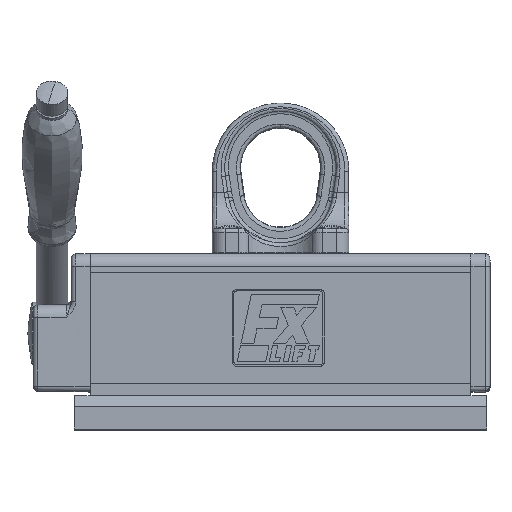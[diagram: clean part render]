
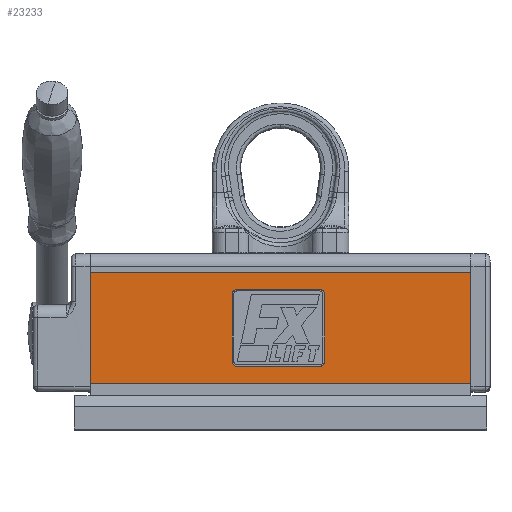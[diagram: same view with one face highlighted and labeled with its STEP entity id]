
A CAD part, top view. The second image highlights one B-rep face of the part: STEP entity #23233.
In plain terms, the highlighted planar face has unit normal (0, 0, 1).
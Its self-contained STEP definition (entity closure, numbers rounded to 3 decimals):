
#243 = EDGE_CURVE ( 'NONE', #61387, #5967, #23710, .T. ) ;
#722 = CARTESIAN_POINT ( 'NONE',  ( -120., 0., 54.5 ) ) ;
#910 = VERTEX_POINT ( 'NONE', #56344 ) ;
#1169 = CARTESIAN_POINT ( 'NONE',  ( -30.57, -13.706, 54.5 ) ) ;
#1253 = CARTESIAN_POINT ( 'NONE',  ( 120., 0., 54.5 ) ) ;
#2060 = VECTOR ( 'NONE', #31410, 1000. ) ;
#2574 = B_SPLINE_CURVE_WITH_KNOTS ( 'NONE', 3,
 ( #53909, #20285, #58757, #30005 ),
 .UNSPECIFIED., .F., .F.,
 ( 4, 4 ),
 ( 0.111, 0.222 ),
 .UNSPECIFIED. ) ;
#2956 = CARTESIAN_POINT ( 'NONE',  ( -27.332, -59.045, 54.5 ) ) ;
#3726 = B_SPLINE_CURVE_WITH_KNOTS ( 'NONE', 3,
 ( #60575, #55764, #41477, #12642 ),
 .UNSPECIFIED., .F., .F.,
 ( 4, 4 ),
 ( 0.333, 0.444 ),
 .UNSPECIFIED. ) ;
#5168 = CARTESIAN_POINT ( 'NONE',  ( 0., -59.045, 54.5 ) ) ;
#5691 = LINE ( 'NONE', #5168, #55353 ) ;
#5967 = VERTEX_POINT ( 'NONE', #61978 ) ;
#7275 = CARTESIAN_POINT ( 'NONE',  ( -27.332, -59.045, 54.5 ) ) ;
#7344 = VERTEX_POINT ( 'NONE', #1253 ) ;
#8169 = ORIENTED_EDGE ( 'NONE', *, *, #14700, .T. ) ;
#10210 = DIRECTION ( 'NONE',  ( 0., -1., 0. ) ) ;
#10228 = DIRECTION ( 'NONE',  ( 1., 0., 0. ) ) ;
#10728 = CARTESIAN_POINT ( 'NONE',  ( 24.485, -59.045, 54.5 ) ) ;
#11960 = VERTEX_POINT ( 'NONE', #39751 ) ;
#12642 = CARTESIAN_POINT ( 'NONE',  ( 24.485, -59.045, 54.5 ) ) ;
#13737 = EDGE_CURVE ( 'NONE', #15255, #7344, #31380, .T. ) ;
#14209 = ORIENTED_EDGE ( 'NONE', *, *, #47736, .T. ) ;
#14700 = EDGE_CURVE ( 'NONE', #20351, #33721, #5691, .T. ) ;
#14787 = LINE ( 'NONE', #55131, #2060 ) ;
#15255 = VERTEX_POINT ( 'NONE', #722 ) ;
#15663 = VECTOR ( 'NONE', #52274, 1000. ) ;
#15998 = AXIS2_PLACEMENT_3D ( 'NONE', #23338, #61766, #33011 ) ;
#16517 = EDGE_CURVE ( 'NONE', #11960, #21019, #28223, .T. ) ;
#16565 = ORIENTED_EDGE ( 'NONE', *, *, #16517, .T. ) ;
#16829 = VECTOR ( 'NONE', #10210, 1000. ) ;
#16925 = ORIENTED_EDGE ( 'NONE', *, *, #39781, .F. ) ;
#17592 = EDGE_CURVE ( 'NONE', #910, #39407, #60426, .T. ) ;
#17764 = CARTESIAN_POINT ( 'NONE',  ( 27.723, -55.806, 54.5 ) ) ;
#18723 = LINE ( 'NONE', #42632, #15663 ) ;
#18817 = LINE ( 'NONE', #32166, #42924 ) ;
#20285 = CARTESIAN_POINT ( 'NONE',  ( 26.266, -10.467, 54.5 ) ) ;
#20351 = VERTEX_POINT ( 'NONE', #10728 ) ;
#20873 = EDGE_LOOP ( 'NONE', ( #47286, #36046, #21173, #54981, #16565, #22285, #8169, #27038 ) ) ;
#21019 = VERTEX_POINT ( 'NONE', #17764 ) ;
#21173 = ORIENTED_EDGE ( 'NONE', *, *, #35793, .T. ) ;
#21809 = CARTESIAN_POINT ( 'NONE',  ( -30.57, -55.806, 54.5 ) ) ;
#21910 = VERTEX_POINT ( 'NONE', #54528 ) ;
#22285 = ORIENTED_EDGE ( 'NONE', *, *, #38463, .T. ) ;
#22553 = FACE_BOUND ( 'NONE', #20873, .T. ) ;
#23233 = ADVANCED_FACE ( 'NONE', ( #59359, #22553 ), #52082, .T. ) ;
#23338 = CARTESIAN_POINT ( 'NONE',  ( -120., -38., 54.5 ) ) ;
#23710 = B_SPLINE_CURVE_WITH_KNOTS ( 'NONE', 3,
 ( #1169, #29788, #58746, #34821 ),
 .UNSPECIFIED., .F., .F.,
 ( 4, 4 ),
 ( 0.778, 1. ),
 .UNSPECIFIED. ) ;
#27038 = ORIENTED_EDGE ( 'NONE', *, *, #61198, .T. ) ;
#27364 = CARTESIAN_POINT ( 'NONE',  ( -30.57, -55.806, 54.5 ) ) ;
#28223 = LINE ( 'NONE', #39061, #16829 ) ;
#29788 = CARTESIAN_POINT ( 'NONE',  ( -30.57, -11.925, 54.5 ) ) ;
#30005 = CARTESIAN_POINT ( 'NONE',  ( 27.723, -13.706, 54.5 ) ) ;
#30140 = VECTOR ( 'NONE', #56879, 1000. ) ;
#31305 = CARTESIAN_POINT ( 'NONE',  ( -29.113, -59.045, 54.5 ) ) ;
#31380 = LINE ( 'NONE', #33957, #42661 ) ;
#31410 = DIRECTION ( 'NONE',  ( 0., -1., 0. ) ) ;
#32166 = CARTESIAN_POINT ( 'NONE',  ( -120., -38., 54.5 ) ) ;
#33011 = DIRECTION ( 'NONE',  ( 1., 0., 0. ) ) ;
#33721 = VERTEX_POINT ( 'NONE', #2956 ) ;
#33957 = CARTESIAN_POINT ( 'NONE',  ( -120., 0., 54.5 ) ) ;
#34018 = DIRECTION ( 'NONE',  ( -1., 0., 0. ) ) ;
#34821 = CARTESIAN_POINT ( 'NONE',  ( -27.332, -10.467, 54.5 ) ) ;
#35351 = VERTEX_POINT ( 'NONE', #27364 ) ;
#35793 = EDGE_CURVE ( 'NONE', #5967, #21910, #55677, .T. ) ;
#36046 = ORIENTED_EDGE ( 'NONE', *, *, #243, .T. ) ;
#36995 = EDGE_CURVE ( 'NONE', #21910, #11960, #2574, .T. ) ;
#37006 = DIRECTION ( 'NONE',  ( 0., -1., 0. ) ) ;
#38463 = EDGE_CURVE ( 'NONE', #21019, #20351, #3726, .T. ) ;
#38785 = DIRECTION ( 'NONE',  ( 1., 0., 0. ) ) ;
#39061 = CARTESIAN_POINT ( 'NONE',  ( 27.723, 0., 54.5 ) ) ;
#39407 = VERTEX_POINT ( 'NONE', #61709 ) ;
#39751 = CARTESIAN_POINT ( 'NONE',  ( 27.723, -13.706, 54.5 ) ) ;
#39781 = EDGE_CURVE ( 'NONE', #7344, #39407, #14787, .T. ) ;
#40291 = ORIENTED_EDGE ( 'NONE', *, *, #17592, .T. ) ;
#41477 = CARTESIAN_POINT ( 'NONE',  ( 26.266, -59.045, 54.5 ) ) ;
#42394 = CARTESIAN_POINT ( 'NONE',  ( 0., -10.467, 54.5 ) ) ;
#42632 = CARTESIAN_POINT ( 'NONE',  ( -30.57, 0., 54.5 ) ) ;
#42661 = VECTOR ( 'NONE', #38785, 1000. ) ;
#42924 = VECTOR ( 'NONE', #37006, 1000. ) ;
#46133 = VECTOR ( 'NONE', #10228, 1000. ) ;
#47229 = CARTESIAN_POINT ( 'NONE',  ( -30.57, -13.706, 54.5 ) ) ;
#47286 = ORIENTED_EDGE ( 'NONE', *, *, #53148, .T. ) ;
#47736 = EDGE_CURVE ( 'NONE', #15255, #910, #18817, .T. ) ;
#48494 = CARTESIAN_POINT ( 'NONE',  ( -120., -70.5, 54.5 ) ) ;
#50172 = ORIENTED_EDGE ( 'NONE', *, *, #13737, .F. ) ;
#50510 = B_SPLINE_CURVE_WITH_KNOTS ( 'NONE', 3,
 ( #7275, #31305, #50591, #21809 ),
 .UNSPECIFIED., .F., .F.,
 ( 4, 4 ),
 ( 0.556, 0.667 ),
 .UNSPECIFIED. ) ;
#50591 = CARTESIAN_POINT ( 'NONE',  ( -30.57, -57.588, 54.5 ) ) ;
#52082 = PLANE ( 'NONE',  #15998 ) ;
#52274 = DIRECTION ( 'NONE',  ( 0., 1., 0. ) ) ;
#53148 = EDGE_CURVE ( 'NONE', #35351, #61387, #18723, .T. ) ;
#53909 = CARTESIAN_POINT ( 'NONE',  ( 24.485, -10.467, 54.5 ) ) ;
#54293 = EDGE_LOOP ( 'NONE', ( #16925, #50172, #14209, #40291 ) ) ;
#54528 = CARTESIAN_POINT ( 'NONE',  ( 24.485, -10.467, 54.5 ) ) ;
#54981 = ORIENTED_EDGE ( 'NONE', *, *, #36995, .T. ) ;
#55131 = CARTESIAN_POINT ( 'NONE',  ( 120., -38., 54.5 ) ) ;
#55353 = VECTOR ( 'NONE', #34018, 1000. ) ;
#55677 = LINE ( 'NONE', #42394, #30140 ) ;
#55764 = CARTESIAN_POINT ( 'NONE',  ( 27.723, -57.588, 54.5 ) ) ;
#56344 = CARTESIAN_POINT ( 'NONE',  ( -120., -70.5, 54.5 ) ) ;
#56879 = DIRECTION ( 'NONE',  ( 1., 0., 0. ) ) ;
#58746 = CARTESIAN_POINT ( 'NONE',  ( -29.113, -10.467, 54.5 ) ) ;
#58757 = CARTESIAN_POINT ( 'NONE',  ( 27.723, -11.925, 54.5 ) ) ;
#59359 = FACE_OUTER_BOUND ( 'NONE', #54293, .T. ) ;
#60426 = LINE ( 'NONE', #48494, #46133 ) ;
#60575 = CARTESIAN_POINT ( 'NONE',  ( 27.723, -55.806, 54.5 ) ) ;
#61198 = EDGE_CURVE ( 'NONE', #33721, #35351, #50510, .T. ) ;
#61387 = VERTEX_POINT ( 'NONE', #47229 ) ;
#61709 = CARTESIAN_POINT ( 'NONE',  ( 120., -70.5, 54.5 ) ) ;
#61766 = DIRECTION ( 'NONE',  ( 0., 0., 1. ) ) ;
#61978 = CARTESIAN_POINT ( 'NONE',  ( -27.332, -10.467, 54.5 ) ) ;
